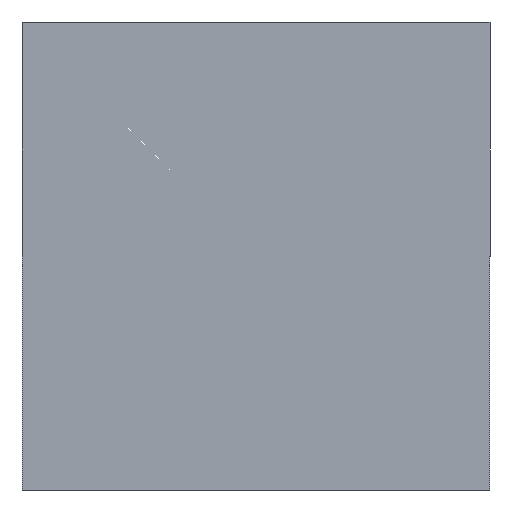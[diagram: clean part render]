
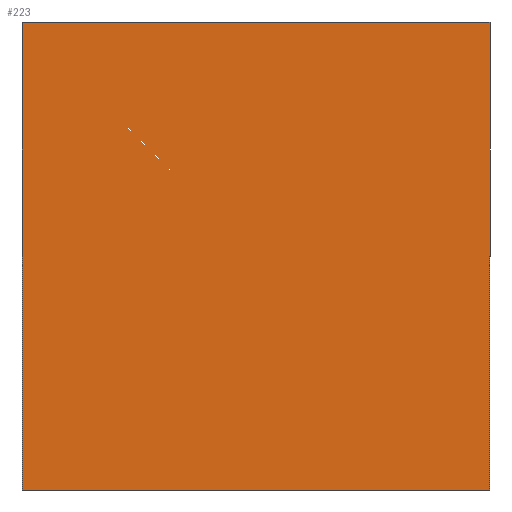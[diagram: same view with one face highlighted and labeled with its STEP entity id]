
A CAD part, front view. The second image highlights one B-rep face of the part: STEP entity #223.
In plain terms, the highlighted planar face has unit normal (0, -1, 0).
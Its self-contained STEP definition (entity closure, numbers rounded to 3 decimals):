
#2 = LINE ( 'NONE', #74, #137 ) ;
#3 = ORIENTED_EDGE ( 'NONE', *, *, #112, .F. ) ;
#7 = ORIENTED_EDGE ( 'NONE', *, *, #13, .F. ) ;
#9 = LINE ( 'NONE', #151, #194 ) ;
#13 = EDGE_CURVE ( 'NONE', #189, #168, #2, .T. ) ;
#14 = VECTOR ( 'NONE', #234, 1000. ) ;
#22 = CARTESIAN_POINT ( 'NONE',  ( 120., 0., 120. ) ) ;
#30 = DIRECTION ( 'NONE',  ( 0., 0., 1. ) ) ;
#44 = CARTESIAN_POINT ( 'NONE',  ( 120., 0., -120. ) ) ;
#52 = VERTEX_POINT ( 'NONE', #22 ) ;
#64 = FACE_OUTER_BOUND ( 'NONE', #218, .T. ) ;
#68 = EDGE_CURVE ( 'NONE', #52, #186, #127, .T. ) ;
#74 = CARTESIAN_POINT ( 'NONE',  ( -120., 0., -120. ) ) ;
#77 = DIRECTION ( 'NONE',  ( 0., 0., 1. ) ) ;
#93 = DIRECTION ( 'NONE',  ( 0., 0., -1. ) ) ;
#112 = EDGE_CURVE ( 'NONE', #186, #189, #9, .T. ) ;
#122 = ORIENTED_EDGE ( 'NONE', *, *, #68, .F. ) ;
#127 = LINE ( 'NONE', #184, #170 ) ;
#137 = VECTOR ( 'NONE', #77, 1000. ) ;
#139 = CARTESIAN_POINT ( 'NONE',  ( 0., 0., 0. ) ) ;
#151 = CARTESIAN_POINT ( 'NONE',  ( -120., 0., -120. ) ) ;
#156 = PLANE ( 'NONE',  #228 ) ;
#157 = LINE ( 'NONE', #232, #14 ) ;
#168 = VERTEX_POINT ( 'NONE', #231 ) ;
#170 = VECTOR ( 'NONE', #93, 1000. ) ;
#173 = EDGE_CURVE ( 'NONE', #168, #52, #157, .T. ) ;
#184 = CARTESIAN_POINT ( 'NONE',  ( 120., 0., -120. ) ) ;
#186 = VERTEX_POINT ( 'NONE', #44 ) ;
#189 = VERTEX_POINT ( 'NONE', #233 ) ;
#192 = ORIENTED_EDGE ( 'NONE', *, *, #173, .F. ) ;
#194 = VECTOR ( 'NONE', #227, 1000. ) ;
#196 = DIRECTION ( 'NONE',  ( 0., 1., 0. ) ) ;
#218 = EDGE_LOOP ( 'NONE', ( #122, #192, #7, #3 ) ) ;
#223 = ADVANCED_FACE ( 'NONE', ( #64 ), #156, .F. ) ;
#227 = DIRECTION ( 'NONE',  ( -1., 0., 0. ) ) ;
#228 = AXIS2_PLACEMENT_3D ( 'NONE', #139, #196, #30 ) ;
#231 = CARTESIAN_POINT ( 'NONE',  ( -120., 0., 120. ) ) ;
#232 = CARTESIAN_POINT ( 'NONE',  ( -120., 0., 120. ) ) ;
#233 = CARTESIAN_POINT ( 'NONE',  ( -120., 0., -120. ) ) ;
#234 = DIRECTION ( 'NONE',  ( 1., 0., 0. ) ) ;
